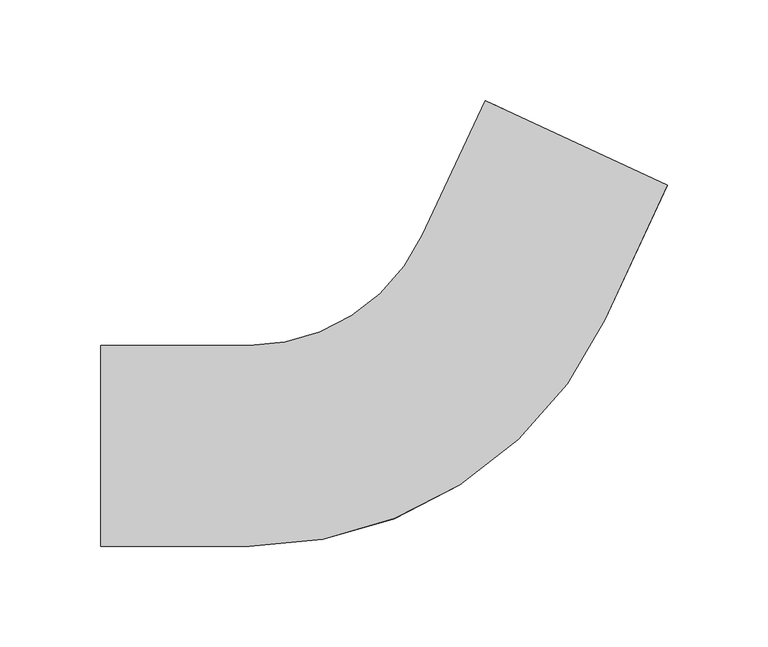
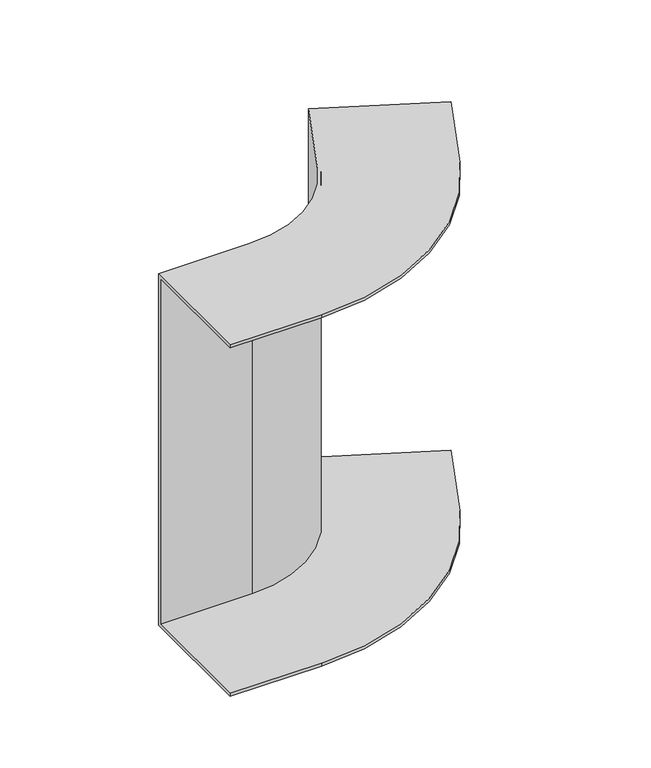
"""IFC4 building model written with IfcOpenShell, lengths in millimetres: cable carrier fitting geometry, BAKS_KK_Vertical bend INTERNAL_LU : LUMNJ_H100."""

import ifcopenshell
import ifcopenshell.guid

model = None  # the IFC model being written
_history = None  # IfcOwnerHistory: only IFC2X3 demands one
_inside = {}  # id of a spatial element -> (the spatial element, [elements in it])
_under = {}  # id of a project, library or spatial element -> (it, [spatial elements below it])
_declared = {}  # id of a project -> (the project, [libraries it declares])
_typed = {}  # id of a type object -> (the type object, [elements of that type])
_made_of = {}  # id of a material, layer set ... -> (it, [elements and type objects made of it])


def new_model(schema):
    """Start an empty IFC model of exactly this schema.

    Asked for "IFC4X3", IfcOpenShell would pick the latest addendum, in which some entities
    have other attributes; the version numbers below select the first issue.
    IFC2X3 requires an IfcOwnerHistory on every rooted entity: one is made here for all.
    """
    global model, _history
    if schema == "IFC4X3":
        model = ifcopenshell.file(schema_version=(4, 3, 0, 0))
    else:
        model = ifcopenshell.file(schema=schema)
    _inside.clear()
    _under.clear()
    _declared.clear()
    _typed.clear()
    _made_of.clear()
    _history = None
    if model.schema == "IFC2X3":
        org = make("IfcOrganization", Name="unknown")
        user = make(
            "IfcPersonAndOrganization",
            ThePerson=make("IfcPerson", FamilyName="unknown"),
            TheOrganization=org,
        )
        app = make(
            "IfcApplication",
            ApplicationDeveloper=org,
            Version="unknown",
            ApplicationFullName="unknown",
            ApplicationIdentifier="unknown",
        )
        _history = make(
            "IfcOwnerHistory",
            OwningUser=user,
            OwningApplication=app,
            ChangeAction="ADDED",
            CreationDate=0,
        )
    return model


def make(cls, **values):
    """One entity of the class cls with the attributes given. An attribute that is None is left unset."""
    return model.create_entity(
        cls, **{name: value for name, value in values.items() if value is not None}
    )


def rooted(cls, **values):
    """An entity with a GlobalId (a new one), such as an element, a storey or a relation."""
    return make(cls, GlobalId=ifcopenshell.guid.new(), OwnerHistory=_history, **values)


def si_unit(unit_type, name, prefix=None):
    """IfcSIUnit, for example si_unit("LENGTHUNIT", "METRE", prefix="MILLI")."""
    return make("IfcSIUnit", UnitType=unit_type, Prefix=prefix, Name=name)


def assignment(units):
    """IfcUnitAssignment: the units of a project."""
    return None if units is None else make("IfcUnitAssignment", Units=units)


def point(xyz):
    """IfcCartesianPoint."""
    return None if xyz is None else make("IfcCartesianPoint", Coordinates=xyz)


def direction(xyz):
    """IfcDirection."""
    return None if xyz is None else make("IfcDirection", DirectionRatios=xyz)


def frame(location, z_axis=None, x_axis=None):
    """IfcAxis2Placement3D, a coordinate frame: its origin and axes. An axis left out is left unset."""
    return make(
        "IfcAxis2Placement3D",
        Location=point(location),
        Axis=direction(z_axis),
        RefDirection=direction(x_axis),
    )


def origin():
    """The frame at (0, 0, 0) with its axes left unset."""
    return frame((0.0, 0.0, 0.0))


def place(relative_to, where):
    """IfcLocalPlacement: puts the frame where relative to a parent placement (None: the world)."""
    return make(
        "IfcLocalPlacement", PlacementRelTo=relative_to, RelativePlacement=where
    )


def context(
    kind, dimensions, precision=None, world=None, true_north=None, identifier=None
):
    """IfcGeometricRepresentationContext, for example the 3D "Model" context."""
    return make(
        "IfcGeometricRepresentationContext",
        ContextIdentifier=identifier,
        ContextType=kind,
        CoordinateSpaceDimension=dimensions,
        Precision=precision,
        WorldCoordinateSystem=world,
        TrueNorth=true_north,
    )


def project(units=None, contexts=None):
    """IfcProject with its units and contexts."""
    return rooted(
        "IfcProject",
        Name="project",
        RepresentationContexts=contexts,
        UnitsInContext=assignment(units),
    )


def spatial(cls, under=None, at=None, **own):
    """A site, building, storey or space (cls), placed at a placement, below another one or the project."""
    s = rooted(cls, ObjectPlacement=at, **own)
    if under is not None:
        _under.setdefault(under.id(), (under, []))[1].append(s)
    return s


def polyline(points):
    """IfcPolyline through the points."""
    return make("IfcPolyline", Points=[point(p) for p in points])


def circle_curve(where, radius):
    """IfcCircle in the frame where."""
    return make("IfcCircle", Position=where, Radius=radius)


def shape(context_of_items, identifier, shape_type, items):
    """IfcShapeRepresentation: the items that make up one representation, for example the "Body"."""
    return make(
        "IfcShapeRepresentation",
        ContextOfItems=context_of_items,
        RepresentationIdentifier=identifier,
        RepresentationType=shape_type,
        Items=items,
    )


def source(mapping_origin, context_of_items, identifier, shape_type, items):
    """IfcRepresentationMap: a shape defined once, which mapped items show again and again."""
    return make(
        "IfcRepresentationMap",
        MappingOrigin=mapping_origin,
        MappedRepresentation=shape(context_of_items, identifier, shape_type, items),
    )


def transform(
    local_origin,
    x_axis=None,
    y_axis=None,
    z_axis=None,
    scale=None,
    scale2=None,
    scale3=None,
    uniform=True,
):
    """IfcCartesianTransformationOperator3D, or its non-uniform kind. x_axis, y_axis, z_axis: its Axis1, 2, 3."""
    if uniform:
        return make(
            "IfcCartesianTransformationOperator3D",
            Axis1=direction(x_axis),
            Axis2=direction(y_axis),
            LocalOrigin=point(local_origin),
            Scale=scale,
            Axis3=direction(z_axis),
        )
    return make(
        "IfcCartesianTransformationOperator3DnonUniform",
        Axis1=direction(x_axis),
        Axis2=direction(y_axis),
        LocalOrigin=point(local_origin),
        Scale=scale,
        Axis3=direction(z_axis),
        Scale2=scale2,
        Scale3=scale3,
    )


def mapped(mapping_source, mapping_target):
    """IfcMappedItem: shows the shape of a source again, moved by a transform."""
    return make(
        "IfcMappedItem", MappingSource=mapping_source, MappingTarget=mapping_target
    )


def made_of(thing, what):
    """Note that an element or type object is made of a material, layer set ...; save() writes the relation."""
    if what is not None:
        _made_of.setdefault(what.id(), (what, []))[1].append(thing)
    return thing


def element(
    cls,
    number,
    at=None,
    inside=None,
    cuts=None,
    type_object=None,
    material=None,
    context=None,
    identifier="Body",
    shape_type=None,
    held_by="IfcProductDefinitionShape",
    body=None,
    shapes=None,
    **own,
):
    """One element of the class cls, such as IfcWall. Its Tag is "e" and its number.

    at: its placement. inside: the storey or other place that contains it. cuts: it is an
    opening in that element (IfcRelVoidsElement). A single representation is given by context,
    identifier, shape_type and body (its items); several are given by shapes. held_by: the class
    of the entity that holds the representations. save() writes the other relations.
    """
    e = rooted(cls, Tag="e%d" % number, ObjectPlacement=at, **own)
    if body is not None:
        shapes = [shape(context, identifier, shape_type, body)]
    if shapes is not None:
        e.Representation = make(held_by, Representations=shapes)
    if inside is not None:
        _inside.setdefault(inside.id(), (inside, []))[1].append(e)
    if cuts is not None:
        rooted(
            "IfcRelVoidsElement", RelatingBuildingElement=cuts, RelatedOpeningElement=e
        )
    if type_object is not None:
        _typed.setdefault(type_object.id(), (type_object, []))[1].append(e)
    return made_of(e, material)


def aggregate(whole, parts):
    """IfcRelAggregates: a whole, such as a stair, and the parts it consists of."""
    return rooted("IfcRelAggregates", RelatingObject=whole, RelatedObjects=parts)


def save(model, path):
    """Write the relations noted so far, then the file.

    IfcRelAggregates (storeys below a building ...), IfcRelContainedInSpatialStructure (elements
    in a storey), IfcRelDefinesByType, IfcRelAssociatesMaterial and IfcRelDeclares: one each for
    every whole, place, type object, material and project.
    """
    for whole, parts in _under.values():
        aggregate(whole, parts)
    for where, things in _inside.values():
        rooted(
            "IfcRelContainedInSpatialStructure",
            RelatedElements=things,
            RelatingStructure=where,
        )
    for kind, things in _typed.values():
        rooted("IfcRelDefinesByType", RelatedObjects=things, RelatingType=kind)
    for what, things in _made_of.values():
        rooted("IfcRelAssociatesMaterial", RelatedObjects=things, RelatingMaterial=what)
    for by, libraries in _declared.values():
        rooted("IfcRelDeclares", RelatingContext=by, RelatedDefinitions=libraries)
    model.write(path)


def plane_surface(at):
    """IfcPlane: the flat surface through the origin of the frame at, square to its z axis."""
    return make("IfcPlane", Position=at)


def cylinder_surface(at, radius):
    """IfcCylindricalSurface: all points at the distance radius from the z axis of the frame at."""
    return make("IfcCylindricalSurface", Position=at, Radius=radius)


def revolved_surface(curve, axis_point, axis_direction):
    """IfcSurfaceOfRevolution: the curve turned about the line through axis_point along axis_direction."""
    return make(
        "IfcSurfaceOfRevolution",
        SweptCurve=make("IfcArbitraryOpenProfileDef", ProfileType="CURVE", Curve=curve),
        AxisPosition=make("IfcAxis1Placement", Location=point(axis_point), Axis=direction(axis_direction)),
    )


def advanced_brep(points, edges, surfaces, faces):
    """IfcAdvancedBrep: a solid bounded by faces that lie on surfaces and meet in shared edges.

    An edge is (start, end): straight between two places in points (the first is 0);
    or (start, end, curve); or (start, end, curve, False) where it runs against its curve.
    A face is (place in surfaces, loops), or (place, loops, False) where it looks against
    its surface's normal. A loop lists edges by number (the first is 1), with a minus sign
    where the edge is run from its end to its start. The first loop is the outer one.
    """
    corners = [point(p) for p in points]
    vertices = [make("IfcVertexPoint", VertexGeometry=c) for c in corners]
    made = []
    for start, end, *more in edges:
        made.append(
            make(
                "IfcEdgeCurve",
                EdgeStart=vertices[start],
                EdgeEnd=vertices[end],
                EdgeGeometry=more[0] if more else make("IfcPolyline", Points=[corners[start], corners[end]]),
                SameSense=more[1] if len(more) > 1 else True,
            )
        )
    hull = []
    for where, loops, *sense in faces:
        bounds = []
        for j, loop in enumerate(loops):
            ring = [make("IfcOrientedEdge", EdgeElement=made[abs(k) - 1], Orientation=k > 0) for k in loop]
            bounds.append(
                make(
                    "IfcFaceOuterBound" if j == 0 else "IfcFaceBound",
                    Bound=make("IfcEdgeLoop", EdgeList=ring),
                    Orientation=True,
                )
            )
        hull.append(make("IfcAdvancedFace", Bounds=bounds, FaceSurface=surfaces[where], SameSense=sense[0] if sense else True))
    return make("IfcAdvancedBrep", Outer=make("IfcClosedShell", CfsFaces=hull))


def cable_carrier_fitting_844d2b92(model_context):
    return source(origin(), model_context, "Body", "AdvancedBrep", [
        advanced_brep(
        [(-166.3751878, -50.0, 150.0), (-166.3751878, 50.0, 150.0), (-166.3751878, 50.0, -150.0), (-166.3751878, -50.0, -150.0), (-166.3751878, -50.0, -147.46), (-166.3751878, 47.46, -147.46), (-166.3751878, 47.46, 147.46), (-166.3751878, -50.0, 147.46), (115.628582, 129.6562152, 150.0), (115.628582, 129.6562152, 147.46), (27.2998251, 170.844591, 147.46), (27.2998251, 170.844591, -147.46), (115.628582, 129.6562152, -147.46), (115.628582, 129.6562152, -150.0), (24.9978033, 171.9180414, -150.0), (24.9978033, 171.9180414, 150.0), (-92.3751878, -50.0, 150.0), (84.3548307, 62.589439, 150.0), (-6.275948, 104.8512651, 150.0), (-92.3751878, 50.0, 150.0), (-92.3751878, 50.0, -150.0), (-6.275948, 104.8512651, -150.0), (84.3548307, 62.589439, -150.0), (-92.3751878, -50.0, -150.0), (-92.3751878, -50.0, -147.46), (84.3548307, 62.589439, -147.46), (-3.9739263, 103.7778148, -147.46), (-92.3751878, 47.46, -147.46), (-92.3751878, 47.46, 147.46), (-3.9739263, 103.7778148, 147.46), (84.3548307, 62.589439, 147.46), (-92.3751878, -50.0, 147.46)],
        [
            (0, 1),
            (1, 2),
            (2, 3),
            (3, 4),
            (4, 5),
            (5, 6),
            (6, 7),
            (7, 0),
            (8, 9),
            (9, 10),
            (10, 11),
            (11, 12),
            (12, 13),
            (13, 14),
            (14, 15),
            (15, 8),
            (0, 16),
            (16, 17, circle_curve(frame((-92.3751878, 145.0, 150.0), z_axis=(0.0, 0.0, 1.0), x_axis=(0.0, -1.0, 0.0)), 195.0)),
            (17, 8),
            (15, 18),
            (18, 19, circle_curve(frame((-92.3751878, 145.0, 150.0), z_axis=(0.0, 0.0, -1.0), x_axis=(0.0, -1.0, 0.0)), 95.0)),
            (19, 1),
            (19, 20),
            (20, 2),
            (20, 21, circle_curve(frame((-92.3751878, 145.0, -150.0), z_axis=(0.0, 0.0, 1.0), x_axis=(0.0, -1.0, 0.0)), 95.0)),
            (21, 14),
            (13, 22),
            (22, 23, circle_curve(frame((-92.3751878, 145.0, -150.0), z_axis=(0.0, 0.0, -1.0), x_axis=(0.0, -1.0, 0.0)), 195.0)),
            (23, 3),
            (23, 24),
            (24, 4),
            (24, 25, circle_curve(frame((-92.3751878, 145.0, -147.46), z_axis=(0.0, 0.0, 1.0), x_axis=(0.0, -1.0, 0.0)), 195.0)),
            (25, 12),
            (11, 26),
            (26, 27, circle_curve(frame((-92.3751878, 145.0, -147.46), z_axis=(0.0, 0.0, -1.0), x_axis=(0.0, -1.0, 0.0)), 97.54)),
            (27, 5),
            (27, 28),
            (28, 6),
            (28, 29, circle_curve(frame((-92.3751878, 145.0, 147.46), z_axis=(0.0, 0.0, 1.0), x_axis=(0.0, -1.0, 0.0)), 97.54)),
            (29, 10),
            (9, 30),
            (30, 31, circle_curve(frame((-92.3751878, 145.0, 147.46), z_axis=(0.0, 0.0, -1.0), x_axis=(0.0, -1.0, 0.0)), 195.0)),
            (31, 7),
            (31, 16),
            (18, 21),
            (22, 25),
            (26, 29),
            (30, 17),
        ],
        [
            plane_surface(frame((-166.3751878, 0.0, 0.0), z_axis=(-1.0, 0.0, 0.0), x_axis=(0.0, 0.0, 1.0))),
            plane_surface(frame((70.3131927, 150.7871283, 0.0), z_axis=(0.42261826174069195, 0.9063077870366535, 0.0), x_axis=(0.0, 0.0, 1.0))),
            plane_surface(frame((-166.3751878, -50.0, 150.0), z_axis=(0.0, 0.0, 1.0), x_axis=(1.0, 0.0, 0.0))),
            plane_surface(frame((-166.3751878, 50.0, 150.0), z_axis=(0.0, 1.0, 0.0), x_axis=(1.0, 0.0, 0.0))),
            plane_surface(frame((-166.3751878, 50.0, -150.0), z_axis=(0.0, 0.0, -1.0), x_axis=(1.0, 0.0, 0.0))),
            plane_surface(frame((-166.3751878, -50.0, -150.0), z_axis=(0.0, -1.0, 0.0), x_axis=(1.0, 0.0, 0.0))),
            plane_surface(frame((-166.3751878, -50.0, -147.46), z_axis=(0.0, 0.0, 1.0), x_axis=(1.0, 0.0, 0.0))),
            plane_surface(frame((-166.3751878, 47.46, -147.46), z_axis=(0.0, -1.0, 0.0), x_axis=(1.0, 0.0, 0.0))),
            plane_surface(frame((-166.3751878, 47.46, 147.46), z_axis=(0.0, 0.0, -1.0), x_axis=(1.0, 0.0, 0.0))),
            plane_surface(frame((-166.3751878, -50.0, 147.46), z_axis=(0.0, -1.0, 0.0), x_axis=(1.0, 0.0, 0.0))),
            revolved_surface(polyline([(-92.3751878, 50.0, 150.0), (-92.3751878, 50.0, -150.0)]), (-92.3751878, 145.0, 0.0), (0.0, 0.0, 1.0)),
            cylinder_surface(frame((-92.3751878, 145.0, 0.0), z_axis=(0.0, 0.0, 1.0), x_axis=(0.0, -1.0, 0.0)), 195.0),
            cylinder_surface(frame((-92.3751878, 145.0, 0.0), z_axis=(0.0, 0.0, 1.0), x_axis=(0.0, -1.0, 0.0)), 97.54),
            plane_surface(frame((-6.275948, 104.8512651, 150.0), z_axis=(-0.9063077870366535, 0.42261826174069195, 0.0), x_axis=(0.42261826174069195, 0.9063077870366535, 0.0))),
            plane_surface(frame((84.3548307, 62.589439, -150.0), z_axis=(0.9063077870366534, -0.4226182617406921, 0.0), x_axis=(0.4226182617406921, 0.9063077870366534, 0.0))),
            plane_surface(frame((-3.9739263, 103.7778148, -147.46), z_axis=(0.9063077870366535, -0.42261826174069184, 0.0), x_axis=(0.42261826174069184, 0.9063077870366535, 0.0))),
            plane_surface(frame((84.3548307, 62.589439, 147.46), z_axis=(0.9063077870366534, -0.4226182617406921, 0.0), x_axis=(0.4226182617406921, 0.9063077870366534, 0.0))),
        ],
        [
            (0, [[1, 2, 3, 4, 5, 6, 7, 8]]),
            (1, [[9, 10, 11, 12, 13, 14, 15, 16]]),
            (2, [[-1, 17, 18, 19, -16, 20, 21, 22]]),
            (3, [[-2, -22, 23, 24]]),
            (4, [[-3, -24, 25, 26, -14, 27, 28, 29]]),
            (5, [[-4, -29, 30, 31]]),
            (6, [[-5, -31, 32, 33, -12, 34, 35, 36]]),
            (7, [[-6, -36, 37, 38]]),
            (8, [[-7, -38, 39, 40, -10, 41, 42, 43]]),
            (9, [[-8, -43, 44, -17]]),
            (10, [[-25, -23, -21, 45]]),
            (11, [[-32, -30, -28, 46]]),
            (12, [[-39, -37, -35, 47]]),
            (11, [[-18, -44, -42, 48]]),
            (13, [[-45, -20, -15, -26]]),
            (14, [[-46, -27, -13, -33]]),
            (15, [[-47, -34, -11, -40]]),
            (16, [[-48, -41, -9, -19]]),
        ],
    ),
    ])


if __name__ == "__main__":
    model = new_model("IFC4")
    model_context = context("Model", 3, world=origin())
    ifc_project = project(units=[si_unit("LENGTHUNIT", "METRE", prefix="MILLI")], contexts=[model_context])
    site = spatial("IfcSite", under=ifc_project)
    building = spatial("IfcBuilding", under=site)
    placement = place(None, origin())
    cable_carrier_fitting_shape = cable_carrier_fitting_844d2b92(model_context)
    element("IfcCableCarrierFitting", 1, ObjectType="BAKS_KK_Vertical bend INTERNAL_LU : LUMNJ_H100", at=placement, inside=building, context=model_context, shape_type="MappedRepresentation", body=[
        mapped(cable_carrier_fitting_shape, transform((0.0, 0.0, 0.0), x_axis=(1.0, 0.0, 0.0), y_axis=(0.0, 1.0, 0.0), z_axis=(0.0, 0.0, 1.0))),
    ])
    save(model, "model.ifc")
